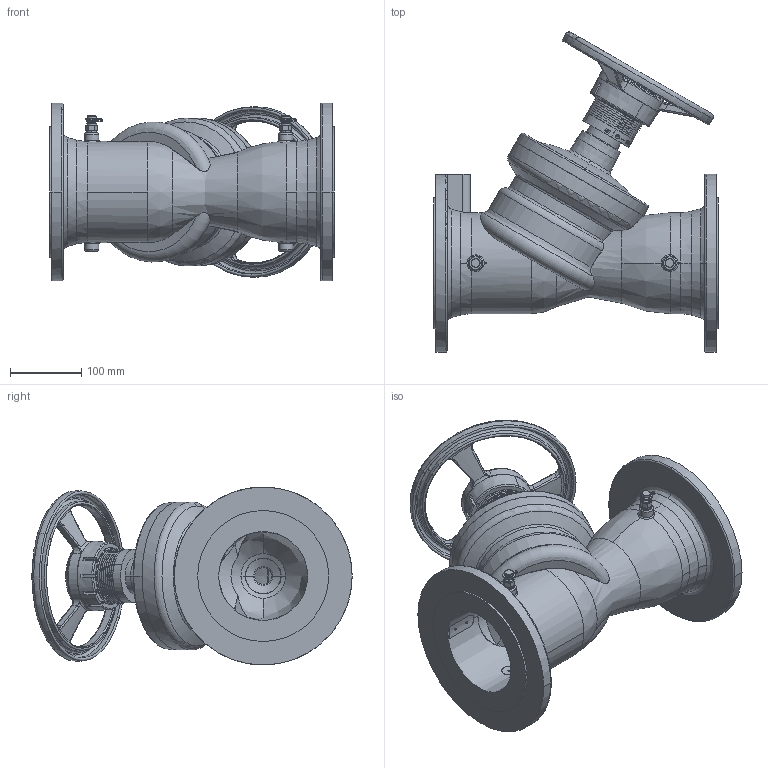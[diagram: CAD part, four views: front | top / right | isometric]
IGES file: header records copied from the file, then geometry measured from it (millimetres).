
Global section: file name: No Iges File Name specified; native system: AutoDesk Inventor R12.0; preprocessor: AutoDesk Inventor Iges Exporter R12.0; date: 20110228.093434; units: millimetre
Bounding box: 400 x 450.07 x 250 mm (x, y, z)
Volume: 6629542.5 mm3; surface area: 701469 mm2
Topology: 1 solids, 2 shells, 1026 faces, 2680 edges, 1718 vertices
Faces by surface type: plane 364, bspline 338, cylinder 126, revolution 92, torus 58, cone 48
